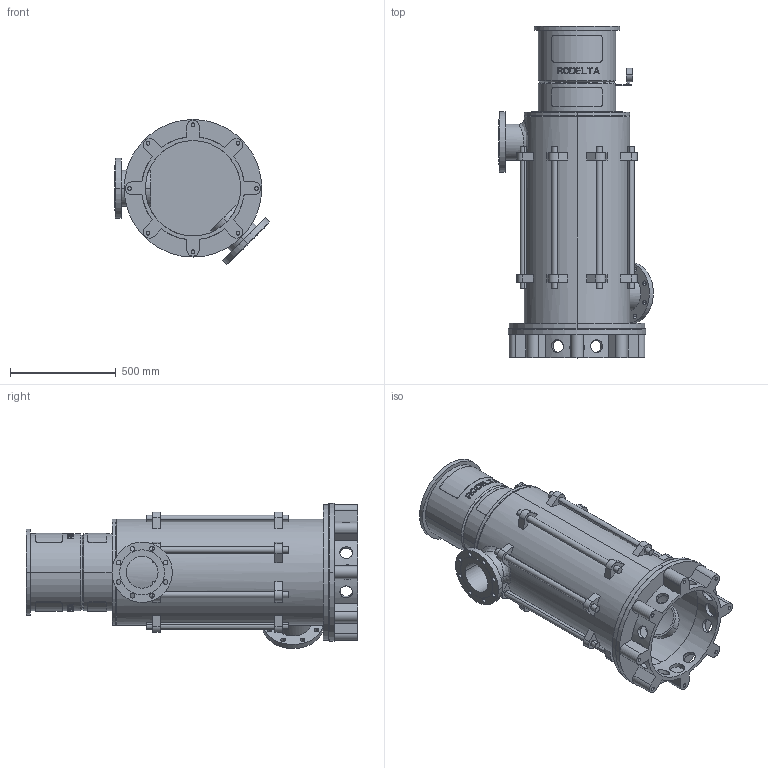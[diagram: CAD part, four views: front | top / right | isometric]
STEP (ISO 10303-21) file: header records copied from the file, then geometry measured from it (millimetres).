
FILE_DESCRIPTION((''),'2;1');
FILE_NAME('LS6_4TR_0GR_PN16_TOT_30KW','2025-10-23T14:55:02',('Lyritlocal'),(''),'CREO PARAMETRIC BY PTC INC, 2022014','CREO PARAMETRIC BY PTC INC, 2022014','');
FILE_SCHEMA(('CONFIG_CONTROL_DESIGN'));
Length unit declared in the file: millimetre
Products named in the file (1): LS6_4TR_0GR_PN16_TOT_30KW
Bounding box: 730.27 x 1567 x 685.27 mm (x, y, z)
Volume: 48715993.9 mm3; surface area: 6690009.4 mm2
Topology: 3 solids, 11 shells, 744 faces, 1951 edges, 1294 vertices
Faces by surface type: plane 438, cylinder 286, cone 12, bspline 8
Entity records: 25219 total; most frequent: CARTESIAN_POINT 6975, ORIENTED_EDGE 3870, DIRECTION 3585, EDGE_CURVE 1951, AXIS2_PLACEMENT_3D 1353, VERTEX_POINT 1294, EDGE_LOOP 909, VECTOR 879
